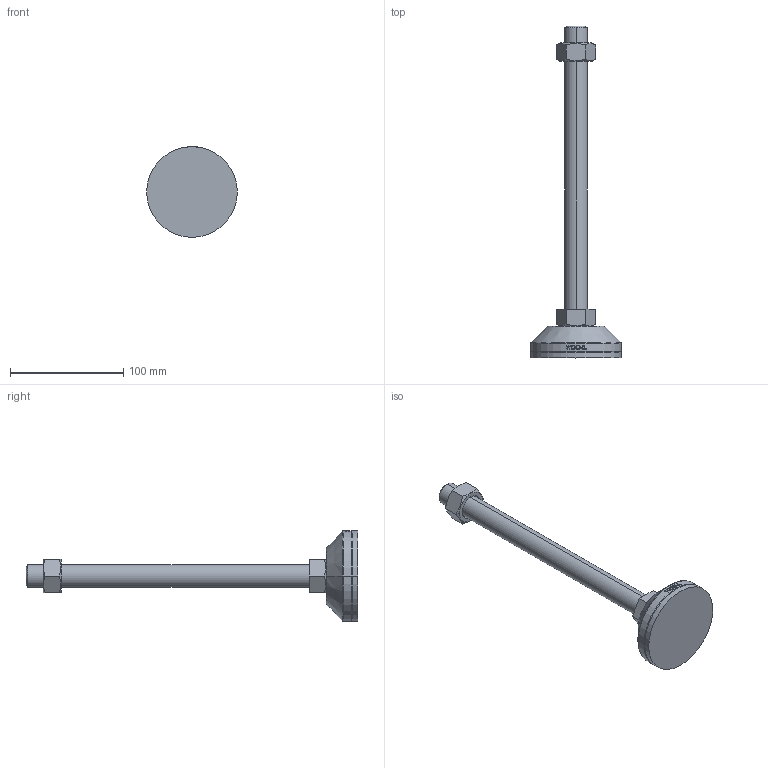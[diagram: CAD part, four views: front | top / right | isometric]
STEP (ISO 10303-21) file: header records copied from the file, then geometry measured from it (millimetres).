
FILE_DESCRIPTION (( 'STEP AP214' ), '1' );
FILE_NAME ('NHNR80-M20-250.step', '2021-01-25T06:22:48', ( '' ), ( '' ), 'SwSTEP 2.0', 'SolidWorks 2019', '' );
FILE_SCHEMA (( 'AUTOMOTIVE_DESIGN' ));
Length unit declared in the file: millimetre
Products named in the file (2): NHNR80-M20-250
Bounding box: 80 x 293 x 80 mm (x, y, z)
Volume: 213418.7 mm3; surface area: 46972.8 mm2
Topology: 4 solids, 4 shells, 105 faces, 239 edges, 152 vertices
Faces by surface type: plane 49, cylinder 18, bspline 16, cone 14, torus 8
Entity records: 4375 total; most frequent: CARTESIAN_POINT 2058, ORIENTED_EDGE 478, DIRECTION 429, EDGE_CURVE 239, AXIS2_PLACEMENT_3D 165, VERTEX_POINT 152, EDGE_LOOP 117, FACE_OUTER_BOUND 105
